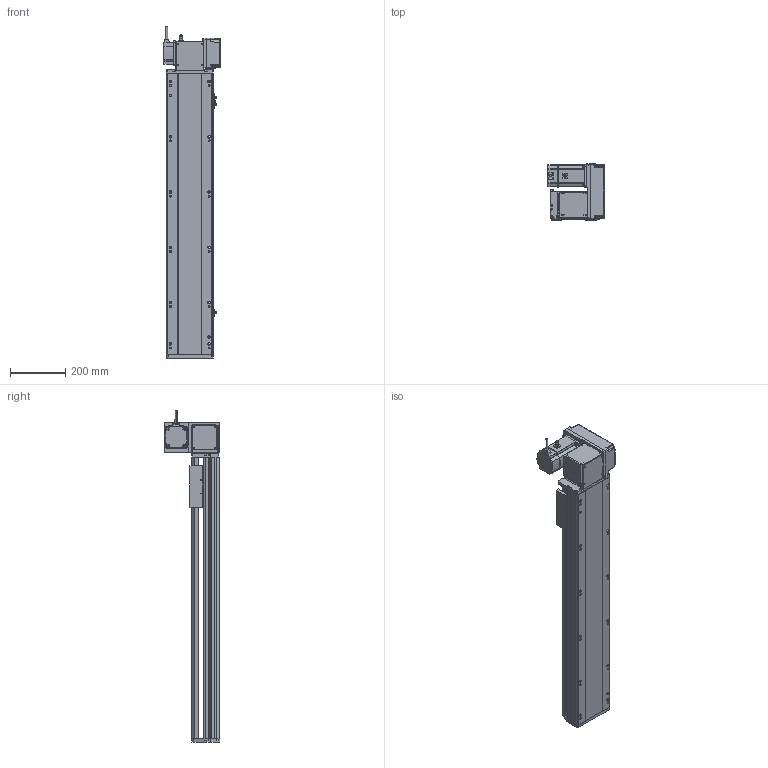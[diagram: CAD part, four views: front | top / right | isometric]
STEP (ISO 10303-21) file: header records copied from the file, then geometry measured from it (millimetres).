
FILE_DESCRIPTION (( 'STEP AP214' ), '1' );
FILE_NAME ('RTB17S-XX-750-RW-M75-C4.STEP', '2025-12-12T02:34:40', ( '' ), ( '' ), 'SwSTEP 2.0', 'SolidWorks 2018', '' );
FILE_SCHEMA (( 'AUTOMOTIVE_DESIGN' ));
Length unit declared in the file: millimetre
Products named in the file (15): 750W萇儂^RTB17S-XX-XX-RW-M75-C4; RTB17S-L-007奻裔^RTB17S-XX-XX-RW-M75-C4; RTH13-BL-012覜茼え俋离^RTB17S-賑釱_RTB17S-XX-XX-RW-M75-C4; RTB22S-GY-018P^RTB17S-RW-々湍釱蚾饜-750W_RTB17S-XX-XX-RW-M75-C4; RTB17S-XX-750-RW-M75-C4; RTB17-R-011菁釱^RTB17S-XX-XX-RW-M75-C4; RTB17S-賑釱^RTB17S-XX-XX-RW-M75-C4; RTB17S-L-001-耜醱啣^RTB17S-XX-XX-RW-M75-C4; RTB22S-GY-017P^RTB17S-RW-々湍釱蚾饜-750W_RTB17S-XX-XX-RW-M75-C4; EE672^RTB17S-XX-XX-RW-M75-C4; RTB17S-RW-々湍釱蚾饜-750W^RTB17S-XX-XX-RW-M75-C4; RTB22S-GY-008-M75--萇儂啣^RTB17S-RW-々湍釱蚾饜-750W_RTB17S-XX-XX-RW-M75-C4; RTB22S-GY-005P^RTB17S-RW-々湍釱蚾饜-750W_RTB17S-XX-XX-RW-M75-C4; RMP17S-L-014-T20-P75--々湍釱^RTB17S-RW-々湍釱蚾饜-750W_RTB17S-XX-XX-RW-M75-C4; RTB17S-L-004-賑釱^RTB17S-賑釱_RTB17S-XX-XX-RW-M75-C4
Assembly tree (17 placements, depth 3):
  RTB17S-XX-750-RW-M75-C4
    RTB17-R-011菁釱^RTB17S-XX-XX-RW-M75-C4
    EE672^RTB17S-XX-XX-RW-M75-C4  x3
    RTB17S-L-001-耜醱啣^RTB17S-XX-XX-RW-M75-C4
    RTB17S-賑釱^RTB17S-XX-XX-RW-M75-C4
      RTB17S-L-004-賑釱^RTB17S-賑釱_RTB17S-XX-XX-RW-M75-C4
      RTH13-BL-012覜茼え俋离^RTB17S-賑釱_RTB17S-XX-XX-RW-M75-C4
    RTB17S-L-007奻裔^RTB17S-XX-XX-RW-M75-C4
    750W萇儂^RTB17S-XX-XX-RW-M75-C4
    RTB17S-RW-々湍釱蚾饜-750W^RTB17S-XX-XX-RW-M75-C4
      RMP17S-L-014-T20-P75--々湍釱^RTB17S-RW-々湍釱蚾饜-750W_RTB17S-XX-XX-RW-M75-C4
      RTB22S-GY-005P^RTB17S-RW-々湍釱蚾饜-750W_RTB17S-XX-XX-RW-M75-C4
      RTB22S-GY-017P^RTB17S-RW-々湍釱蚾饜-750W_RTB17S-XX-XX-RW-M75-C4  x2
      RTB22S-GY-008-M75--萇儂啣^RTB17S-RW-々湍釱蚾饜-750W_RTB17S-XX-XX-RW-M75-C4
      RTB22S-GY-018P^RTB17S-RW-々湍釱蚾饜-750W_RTB17S-XX-XX-RW-M75-C4
Bounding box: 207.4 x 201.5 x 1202.2 mm (x, y, z)
Volume: 10638349.4 mm3; surface area: 1763836.8 mm2
Topology: 17 solids, 17 shells, 2073 faces, 5728 edges, 3698 vertices
Faces by surface type: plane 968, cylinder 689, bspline 294, cone 110, sphere 8, torus 4
Entity records: 57334 total; most frequent: CARTESIAN_POINT 16792, ORIENTED_EDGE 8300, DIRECTION 7772, EDGE_CURVE 4150, AXIS2_PLACEMENT_3D 2718, VERTEX_POINT 2702, LINE 2336, VECTOR 2336
